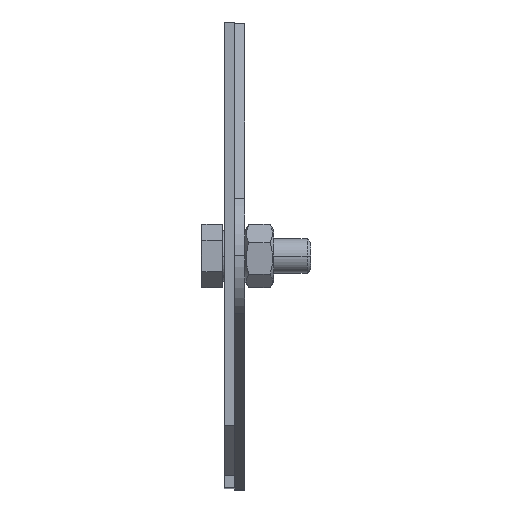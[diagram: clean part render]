
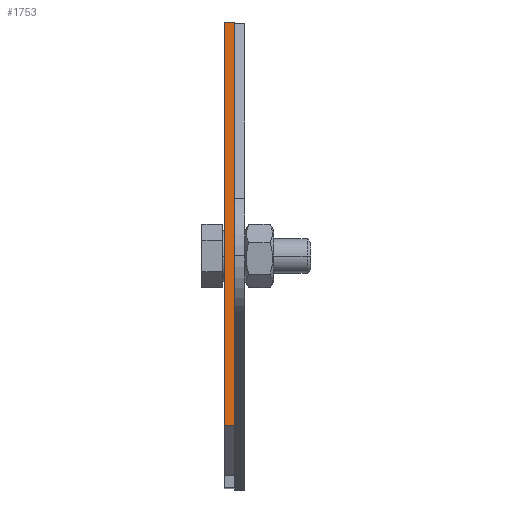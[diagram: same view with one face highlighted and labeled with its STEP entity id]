
A CAD part, top view. The second image highlights one B-rep face of the part: STEP entity #1753.
In plain terms, the highlighted planar face has unit normal (0, 0, 1).
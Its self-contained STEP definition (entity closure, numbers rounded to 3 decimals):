
#17 = VECTOR ( 'NONE', #1946, 1000. ) ;
#147 = DIRECTION ( 'NONE',  ( -1., 0., 0. ) ) ;
#167 = CARTESIAN_POINT ( 'NONE',  ( 3., 135., 70. ) ) ;
#357 = CARTESIAN_POINT ( 'NONE',  ( 0., 135., 70. ) ) ;
#386 = CARTESIAN_POINT ( 'NONE',  ( 0., 135., 70. ) ) ;
#421 = CARTESIAN_POINT ( 'NONE',  ( 3., 0., 70. ) ) ;
#484 = ORIENTED_EDGE ( 'NONE', *, *, #1604, .T. ) ;
#546 = CARTESIAN_POINT ( 'NONE',  ( 0., 0., 70. ) ) ;
#572 = LINE ( 'NONE', #546, #706 ) ;
#649 = EDGE_CURVE ( 'NONE', #1178, #2351, #2431, .T. ) ;
#706 = VECTOR ( 'NONE', #1211, 1000. ) ;
#818 = LINE ( 'NONE', #421, #2057 ) ;
#857 = CARTESIAN_POINT ( 'NONE',  ( 3., 18., 70. ) ) ;
#971 = AXIS2_PLACEMENT_3D ( 'NONE', #1570, #1922, #147 ) ;
#1012 = EDGE_CURVE ( 'NONE', #2083, #1178, #572, .T. ) ;
#1178 = VERTEX_POINT ( 'NONE', #357 ) ;
#1211 = DIRECTION ( 'NONE',  ( 0., 1., 0. ) ) ;
#1217 = ORIENTED_EDGE ( 'NONE', *, *, #649, .F. ) ;
#1382 = ORIENTED_EDGE ( 'NONE', *, *, #1012, .F. ) ;
#1483 = CARTESIAN_POINT ( 'NONE',  ( 0., 18., 70. ) ) ;
#1505 = FACE_OUTER_BOUND ( 'NONE', #2593, .T. ) ;
#1570 = CARTESIAN_POINT ( 'NONE',  ( 3., 135., 70. ) ) ;
#1604 = EDGE_CURVE ( 'NONE', #2584, #2351, #818, .T. ) ;
#1687 = DIRECTION ( 'NONE',  ( 0., 1., 0. ) ) ;
#1753 = ADVANCED_FACE ( 'NONE', ( #1505 ), #1788, .F. ) ;
#1788 = PLANE ( 'NONE',  #971 ) ;
#1906 = LINE ( 'NONE', #2529, #17 ) ;
#1922 = DIRECTION ( 'NONE',  ( 0., 0., -1. ) ) ;
#1946 = DIRECTION ( 'NONE',  ( 1., 0., 0. ) ) ;
#2051 = DIRECTION ( 'NONE',  ( 1., 0., 0. ) ) ;
#2057 = VECTOR ( 'NONE', #1687, 1000. ) ;
#2083 = VERTEX_POINT ( 'NONE', #1483 ) ;
#2088 = EDGE_CURVE ( 'NONE', #2083, #2584, #1906, .T. ) ;
#2277 = VECTOR ( 'NONE', #2051, 1000. ) ;
#2351 = VERTEX_POINT ( 'NONE', #167 ) ;
#2431 = LINE ( 'NONE', #386, #2277 ) ;
#2440 = ORIENTED_EDGE ( 'NONE', *, *, #2088, .T. ) ;
#2529 = CARTESIAN_POINT ( 'NONE',  ( 3., 18., 70. ) ) ;
#2584 = VERTEX_POINT ( 'NONE', #857 ) ;
#2593 = EDGE_LOOP ( 'NONE', ( #1382, #2440, #484, #1217 ) ) ;
